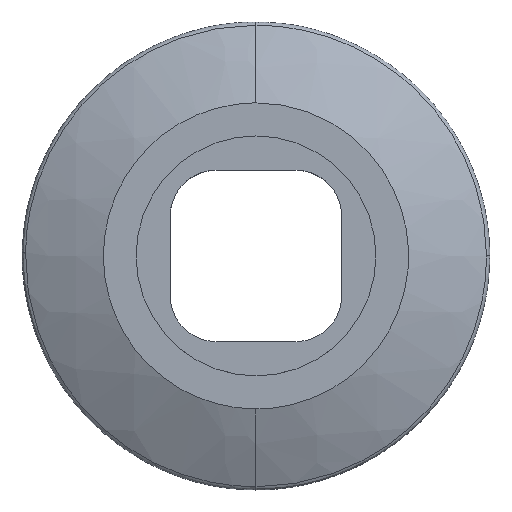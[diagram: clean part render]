
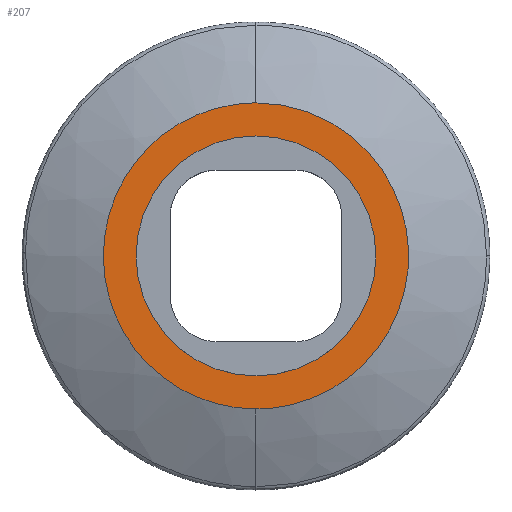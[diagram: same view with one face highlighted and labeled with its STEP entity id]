
A CAD part, top view. The second image highlights one B-rep face of the part: STEP entity #207.
In plain terms, the highlighted planar face has unit normal (0, 0, 1).
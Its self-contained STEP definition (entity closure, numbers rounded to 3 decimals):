
#207=ADVANCED_FACE('',(#272,#273),#243,.F.);
#243=PLANE('',#676);
#251=CIRCLE('',#672,10.5);
#252=CIRCLE('',#673,10.5);
#253=CIRCLE('',#674,10.5);
#254=CIRCLE('',#675,10.5);
#272=FACE_BOUND('',#284,.T.);
#273=FACE_BOUND('',#285,.T.);
#284=EDGE_LOOP('',(#326,#327));
#285=EDGE_LOOP('',(#328,#329,#330,#331,#332,#333,#334,#335));
#326=ORIENTED_EDGE('',*,*,#545,.F.);
#327=ORIENTED_EDGE('',*,*,#546,.F.);
#328=ORIENTED_EDGE('',*,*,#547,.F.);
#329=ORIENTED_EDGE('',*,*,#548,.F.);
#330=ORIENTED_EDGE('',*,*,#549,.F.);
#331=ORIENTED_EDGE('',*,*,#550,.F.);
#332=ORIENTED_EDGE('',*,*,#551,.F.);
#333=ORIENTED_EDGE('',*,*,#552,.F.);
#334=ORIENTED_EDGE('',*,*,#553,.F.);
#335=ORIENTED_EDGE('',*,*,#554,.F.);
#492=VERTEX_POINT('',#833);
#493=VERTEX_POINT('',#834);
#494=VERTEX_POINT('',#849);
#495=VERTEX_POINT('',#850);
#496=VERTEX_POINT('',#852);
#497=VERTEX_POINT('',#857);
#498=VERTEX_POINT('',#859);
#499=VERTEX_POINT('',#864);
#500=VERTEX_POINT('',#866);
#501=VERTEX_POINT('',#871);
#545=EDGE_CURVE('',#492,#493,#628,.T.);
#546=EDGE_CURVE('',#493,#492,#629,.T.);
#547=EDGE_CURVE('',#494,#495,#630,.T.);
#548=EDGE_CURVE('',#496,#494,#251,.T.);
#549=EDGE_CURVE('',#497,#496,#631,.T.);
#550=EDGE_CURVE('',#498,#497,#252,.T.);
#551=EDGE_CURVE('',#499,#498,#632,.T.);
#552=EDGE_CURVE('',#500,#499,#253,.T.);
#553=EDGE_CURVE('',#501,#500,#633,.T.);
#554=EDGE_CURVE('',#495,#501,#254,.T.);
#628=B_SPLINE_CURVE_WITH_KNOTS('',3,(#823,#824,#825,#826,#827,#828,#829,
#830,#831,#832),.UNSPECIFIED.,.F.,.F.,(4,2,2,2,4),(0.,0.25,0.5,0.75,1.),
 .UNSPECIFIED.);
#629=B_SPLINE_CURVE_WITH_KNOTS('',3,(#835,#836,#837,#838,#839,#840,#841,
#842,#843,#844),.UNSPECIFIED.,.F.,.F.,(4,2,2,2,4),(0.,0.25,0.5,0.75,1.),
 .UNSPECIFIED.);
#630=B_SPLINE_CURVE_WITH_KNOTS('',3,(#845,#846,#847,#848),.UNSPECIFIED.,
 .F.,.F.,(4,4),(0.,1.),.UNSPECIFIED.);
#631=B_SPLINE_CURVE_WITH_KNOTS('',3,(#853,#854,#855,#856),.UNSPECIFIED.,
 .F.,.F.,(4,4),(0.,1.),.UNSPECIFIED.);
#632=B_SPLINE_CURVE_WITH_KNOTS('',3,(#860,#861,#862,#863),.UNSPECIFIED.,
 .F.,.F.,(4,4),(0.,1.),.UNSPECIFIED.);
#633=B_SPLINE_CURVE_WITH_KNOTS('',3,(#867,#868,#869,#870),.UNSPECIFIED.,
 .F.,.F.,(4,4),(0.,1.),.UNSPECIFIED.);
#672=AXIS2_PLACEMENT_3D('',#851,#715,#716);
#673=AXIS2_PLACEMENT_3D('',#858,#717,#718);
#674=AXIS2_PLACEMENT_3D('',#865,#719,#720);
#675=AXIS2_PLACEMENT_3D('',#872,#721,#722);
#676=AXIS2_PLACEMENT_3D('',#873,#723,#724);
#715=DIRECTION('',(0.,0.,1.));
#716=DIRECTION('',(-1.,0.,0.));
#717=DIRECTION('',(0.,0.,1.));
#718=DIRECTION('',(-1.,0.,0.));
#719=DIRECTION('',(0.,0.,1.));
#720=DIRECTION('',(-1.,0.,0.));
#721=DIRECTION('',(0.,0.,1.));
#722=DIRECTION('',(-1.,0.,0.));
#723=DIRECTION('',(0.,0.,-1.));
#724=DIRECTION('',(-1.,0.,0.));
#823=CARTESIAN_POINT('',(89.788,51.605,51.738));
#824=CARTESIAN_POINT('',(86.279,51.605,51.738));
#825=CARTESIAN_POINT('',(82.809,53.039,51.738));
#826=CARTESIAN_POINT('',(77.849,58.017,51.738));
#827=CARTESIAN_POINT('',(76.426,61.473,51.738));
#828=CARTESIAN_POINT('',(76.43,68.542,51.738));
#829=CARTESIAN_POINT('',(77.868,72.004,51.738));
#830=CARTESIAN_POINT('',(82.8,76.95,51.738));
#831=CARTESIAN_POINT('',(86.291,78.395,51.738));
#832=CARTESIAN_POINT('',(89.788,78.395,51.738));
#833=CARTESIAN_POINT('',(89.788,51.605,51.738));
#834=CARTESIAN_POINT('',(89.788,78.395,51.738));
#835=CARTESIAN_POINT('',(89.788,78.395,51.738));
#836=CARTESIAN_POINT('',(93.324,78.395,51.738));
#837=CARTESIAN_POINT('',(96.784,76.945,51.738));
#838=CARTESIAN_POINT('',(101.713,71.998,51.738));
#839=CARTESIAN_POINT('',(103.147,68.5,51.738));
#840=CARTESIAN_POINT('',(103.151,61.517,51.738));
#841=CARTESIAN_POINT('',(101.746,58.039,51.738));
#842=CARTESIAN_POINT('',(96.765,53.032,51.738));
#843=CARTESIAN_POINT('',(93.324,51.605,51.738));
#844=CARTESIAN_POINT('',(89.788,51.605,51.738));
#845=CARTESIAN_POINT('',(93.388,74.864,51.738));
#846=CARTESIAN_POINT('',(93.355,74.876,51.738));
#847=CARTESIAN_POINT('',(93.322,74.888,51.738));
#848=CARTESIAN_POINT('',(93.288,74.899,51.738));
#849=CARTESIAN_POINT('',(93.388,74.864,51.738));
#850=CARTESIAN_POINT('',(93.288,74.899,51.738));
#851=CARTESIAN_POINT('',(89.788,65.,51.738));
#852=CARTESIAN_POINT('',(93.388,55.136,51.738));
#853=CARTESIAN_POINT('',(93.288,55.101,51.738));
#854=CARTESIAN_POINT('',(93.322,55.112,51.738));
#855=CARTESIAN_POINT('',(93.355,55.124,51.738));
#856=CARTESIAN_POINT('',(93.388,55.136,51.738));
#857=CARTESIAN_POINT('',(93.288,55.101,51.738));
#858=CARTESIAN_POINT('',(89.788,65.,51.738));
#859=CARTESIAN_POINT('',(86.288,55.101,51.738));
#860=CARTESIAN_POINT('',(86.188,55.136,51.738));
#861=CARTESIAN_POINT('',(86.222,55.124,51.738));
#862=CARTESIAN_POINT('',(86.255,55.112,51.738));
#863=CARTESIAN_POINT('',(86.288,55.101,51.738));
#864=CARTESIAN_POINT('',(86.188,55.136,51.738));
#865=CARTESIAN_POINT('',(89.788,65.,51.738));
#866=CARTESIAN_POINT('',(86.188,74.864,51.738));
#867=CARTESIAN_POINT('',(86.288,74.899,51.738));
#868=CARTESIAN_POINT('',(86.255,74.888,51.738));
#869=CARTESIAN_POINT('',(86.222,74.876,51.738));
#870=CARTESIAN_POINT('',(86.188,74.864,51.738));
#871=CARTESIAN_POINT('',(86.288,74.899,51.738));
#872=CARTESIAN_POINT('',(89.788,65.,51.738));
#873=CARTESIAN_POINT('',(89.788,65.,51.738));
